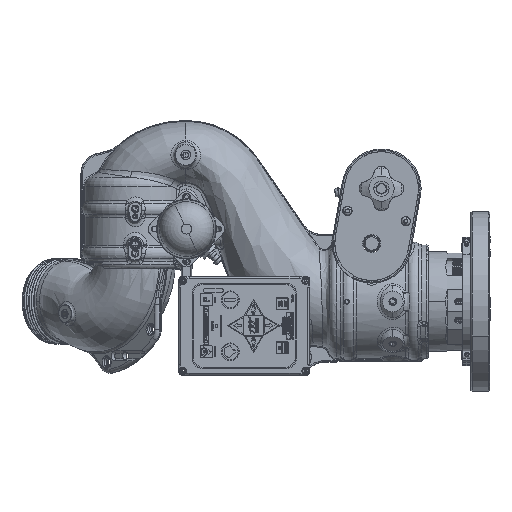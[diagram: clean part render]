
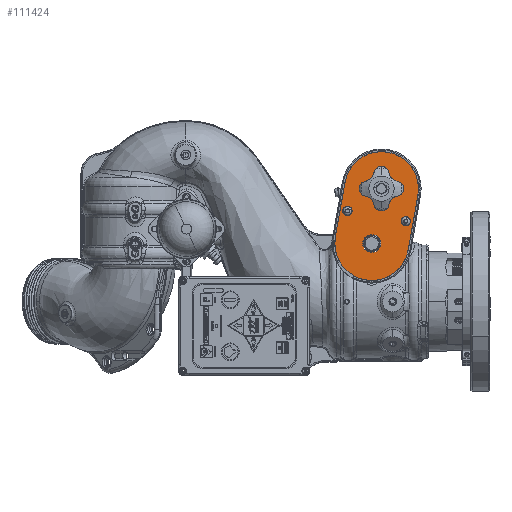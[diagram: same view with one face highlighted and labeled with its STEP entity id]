
A CAD part, left-side view. The second image highlights one B-rep face of the part: STEP entity #111424.
In plain terms, the highlighted planar face has unit normal (-1, 0, 0).
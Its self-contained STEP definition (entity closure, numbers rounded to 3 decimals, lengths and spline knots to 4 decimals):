
#1159 = CARTESIAN_POINT ( 'NONE',  ( -4.345, -2.2275, 5.5832 ) ) ;
#1966 = CARTESIAN_POINT ( 'NONE',  ( -4.345, -2.6633, 5.5064 ) ) ;
#2374 = VERTEX_POINT ( 'NONE', #48702 ) ;
#3278 = DIRECTION ( 'NONE',  ( 0., -0.985, -0.174 ) ) ;
#6094 = EDGE_LOOP ( 'NONE', ( #21336, #66813 ) ) ;
#7051 = LINE ( 'NONE', #28840, #168540 ) ;
#8096 = EDGE_CURVE ( 'NONE', #29639, #58061, #22727, .T. ) ;
#8844 = AXIS2_PLACEMENT_3D ( 'NONE', #187108, #89139, #185735 ) ;
#9478 = ORIENTED_EDGE ( 'NONE', *, *, #38033, .T. ) ;
#10681 = ORIENTED_EDGE ( 'NONE', *, *, #8096, .T. ) ;
#10947 = AXIS2_PLACEMENT_3D ( 'NONE', #194693, #50889, #194012 ) ;
#16415 = DIRECTION ( 'NONE',  ( -1., 0., 0. ) ) ;
#17092 = DIRECTION ( 'NONE',  ( 0., -0.985, -0.174 ) ) ;
#17705 = VECTOR ( 'NONE', #159980, 39.3701 ) ;
#21336 = ORIENTED_EDGE ( 'NONE', *, *, #24702, .F. ) ;
#22727 = CIRCLE ( 'NONE', #8844, 0.4425 ) ;
#24519 = PLANE ( 'NONE',  #38363 ) ;
#24702 = EDGE_CURVE ( 'NONE', #79254, #78336, #83583, .T. ) ;
#25587 = AXIS2_PLACEMENT_3D ( 'NONE', #89870, #139267, #107251 ) ;
#26520 = FACE_BOUND ( 'NONE', #126392, .T. ) ;
#26645 = VERTEX_POINT ( 'NONE', #127368 ) ;
#28566 = EDGE_CURVE ( 'NONE', #74547, #185310, #109792, .T. ) ;
#28840 = CARTESIAN_POINT ( 'NONE',  ( -4.345, 0.0502, 3.1924 ) ) ;
#29639 = VERTEX_POINT ( 'NONE', #150041 ) ;
#29850 = DIRECTION ( 'NONE',  ( 1., 0., 0. ) ) ;
#32271 = AXIS2_PLACEMENT_3D ( 'NONE', #39749, #56362, #102977 ) ;
#32861 = EDGE_CURVE ( 'NONE', #37873, #26645, #166203, .T. ) ;
#37443 = EDGE_CURVE ( 'NONE', #78336, #79254, #108437, .T. ) ;
#37873 = VERTEX_POINT ( 'NONE', #48614 ) ;
#38033 = EDGE_CURVE ( 'NONE', #185310, #74547, #190398, .T. ) ;
#38363 = AXIS2_PLACEMENT_3D ( 'NONE', #151711, #152403, #41817 ) ;
#39749 = CARTESIAN_POINT ( 'NONE',  ( -4.345, -0.546, 4.4835 ) ) ;
#40074 = DIRECTION ( 'NONE',  ( -1., 0., 0. ) ) ;
#41817 = DIRECTION ( 'NONE',  ( 0., -0.985, -0.174 ) ) ;
#42105 = EDGE_LOOP ( 'NONE', ( #69166, #48076, #71295, #147506 ) ) ;
#48076 = ORIENTED_EDGE ( 'NONE', *, *, #87094, .T. ) ;
#48614 = CARTESIAN_POINT ( 'NONE',  ( -4.345, -3.6623, 3.934 ) ) ;
#48702 = CARTESIAN_POINT ( 'NONE',  ( -4.345, -3.5502, 2.5576 ) ) ;
#50889 = DIRECTION ( 'NONE',  ( -1., 0., 0. ) ) ;
#53673 = VERTEX_POINT ( 'NONE', #90592 ) ;
#56230 = EDGE_CURVE ( 'NONE', #138092, #2374, #199950, .T. ) ;
#56362 = DIRECTION ( 'NONE',  ( -1., 0., 0. ) ) ;
#56909 = CARTESIAN_POINT ( 'NONE',  ( -4.345, -2.1858, 2.7982 ) ) ;
#58061 = VERTEX_POINT ( 'NONE', #56909 ) ;
#59911 = AXIS2_PLACEMENT_3D ( 'NONE', #128954, #16415, #17092 ) ;
#62623 = ORIENTED_EDGE ( 'NONE', *, *, #140477, .T. ) ;
#66315 = FACE_BOUND ( 'NONE', #6094, .T. ) ;
#66813 = ORIENTED_EDGE ( 'NONE', *, *, #37443, .F. ) ;
#68837 = CARTESIAN_POINT ( 'NONE',  ( -4.345, -0.3152, 4.5242 ) ) ;
#69166 = ORIENTED_EDGE ( 'NONE', *, *, #81417, .T. ) ;
#71295 = ORIENTED_EDGE ( 'NONE', *, *, #86141, .T. ) ;
#71900 = CARTESIAN_POINT ( 'NONE',  ( -4.345, -4.0278, 5.2658 ) ) ;
#74547 = VERTEX_POINT ( 'NONE', #1966 ) ;
#78336 = VERTEX_POINT ( 'NONE', #68837 ) ;
#78545 = EDGE_LOOP ( 'NONE', ( #62623, #10681 ) ) ;
#79254 = VERTEX_POINT ( 'NONE', #182995 ) ;
#81417 = EDGE_CURVE ( 'NONE', #2374, #167622, #141989, .T. ) ;
#83583 = CIRCLE ( 'NONE', #10947, 0.2344 ) ;
#84171 = AXIS2_PLACEMENT_3D ( 'NONE', #177008, #127739, #3278 ) ;
#84363 = ORIENTED_EDGE ( 'NONE', *, *, #104961, .F. ) ;
#86141 = EDGE_CURVE ( 'NONE', #53673, #138092, #7051, .T. ) ;
#87094 = EDGE_CURVE ( 'NONE', #167622, #53673, #175740, .T. ) ;
#89139 = DIRECTION ( 'NONE',  ( 1., 0., 0. ) ) ;
#89870 = CARTESIAN_POINT ( 'NONE',  ( -4.345, -2.2275, 5.5832 ) ) ;
#90592 = CARTESIAN_POINT ( 'NONE',  ( -4.345, -0.4273, 5.9007 ) ) ;
#95996 = CARTESIAN_POINT ( 'NONE',  ( -4.345, -4.0278, 5.2658 ) ) ;
#101650 = AXIS2_PLACEMENT_3D ( 'NONE', #155065, #105667, #154374 ) ;
#102977 = DIRECTION ( 'NONE',  ( 0., -0.985, -0.174 ) ) ;
#103668 = FACE_BOUND ( 'NONE', #78545, .T. ) ;
#104961 = EDGE_CURVE ( 'NONE', #26645, #37873, #171914, .T. ) ;
#105667 = DIRECTION ( 'NONE',  ( 1., 0., 0. ) ) ;
#107251 = DIRECTION ( 'NONE',  ( 0., -0.985, -0.174 ) ) ;
#108437 = CIRCLE ( 'NONE', #32271, 0.2344 ) ;
#109792 = CIRCLE ( 'NONE', #101650, 0.4425 ) ;
#110402 = CARTESIAN_POINT ( 'NONE',  ( -4.345, -1.75, 2.875 ) ) ;
#111424 = ADVANCED_FACE ( 'NONE', ( #103668, #175636, #26520, #66315, #163246 ), #24519, .T. ) ;
#124328 = AXIS2_PLACEMENT_3D ( 'NONE', #1159, #146412, #128341 ) ;
#126392 = EDGE_LOOP ( 'NONE', ( #143972, #84363 ) ) ;
#127368 = CARTESIAN_POINT ( 'NONE',  ( -4.345, -3.2007, 4.0154 ) ) ;
#127739 = DIRECTION ( 'NONE',  ( -1., 0., 0. ) ) ;
#128341 = DIRECTION ( 'NONE',  ( 0., -0.985, -0.174 ) ) ;
#128954 = CARTESIAN_POINT ( 'NONE',  ( -4.345, -3.4315, 3.9747 ) ) ;
#135296 = CARTESIAN_POINT ( 'NONE',  ( -4.345, -1.75, 2.875 ) ) ;
#137991 = DIRECTION ( 'NONE',  ( 0., -0.985, -0.174 ) ) ;
#138092 = VERTEX_POINT ( 'NONE', #149019 ) ;
#138281 = ORIENTED_EDGE ( 'NONE', *, *, #28566, .T. ) ;
#139267 = DIRECTION ( 'NONE',  ( 1., 0., 0. ) ) ;
#140477 = EDGE_CURVE ( 'NONE', #58061, #29639, #159130, .T. ) ;
#140670 = EDGE_LOOP ( 'NONE', ( #138281, #9478 ) ) ;
#141989 = LINE ( 'NONE', #95996, #17705 ) ;
#143972 = ORIENTED_EDGE ( 'NONE', *, *, #32861, .F. ) ;
#146412 = DIRECTION ( 'NONE',  ( -1., 0., 0. ) ) ;
#147506 = ORIENTED_EDGE ( 'NONE', *, *, #56230, .T. ) ;
#149019 = CARTESIAN_POINT ( 'NONE',  ( -4.345, 0.0502, 3.1924 ) ) ;
#150041 = CARTESIAN_POINT ( 'NONE',  ( -4.345, -1.3142, 2.9518 ) ) ;
#151711 = CARTESIAN_POINT ( 'NONE',  ( -4.345, -3.3706, 0.5482 ) ) ;
#152403 = DIRECTION ( 'NONE',  ( -1., 0., 0. ) ) ;
#152413 = AXIS2_PLACEMENT_3D ( 'NONE', #135296, #40074, #137991 ) ;
#154374 = DIRECTION ( 'NONE',  ( 0., -0.985, -0.174 ) ) ;
#155065 = CARTESIAN_POINT ( 'NONE',  ( -4.345, -2.2275, 5.5832 ) ) ;
#159130 = CIRCLE ( 'NONE', #188846, 0.4425 ) ;
#159980 = DIRECTION ( 'NONE',  ( 0., -0.174, 0.985 ) ) ;
#163246 = FACE_OUTER_BOUND ( 'NONE', #42105, .T. ) ;
#166203 = CIRCLE ( 'NONE', #59911, 0.2344 ) ;
#167622 = VERTEX_POINT ( 'NONE', #71900 ) ;
#168540 = VECTOR ( 'NONE', #188580, 39.3701 ) ;
#171914 = CIRCLE ( 'NONE', #84171, 0.2344 ) ;
#174971 = DIRECTION ( 'NONE',  ( 0., -0.985, -0.174 ) ) ;
#175636 = FACE_BOUND ( 'NONE', #140670, .T. ) ;
#175740 = CIRCLE ( 'NONE', #124328, 1.828 ) ;
#177008 = CARTESIAN_POINT ( 'NONE',  ( -4.345, -3.4315, 3.9747 ) ) ;
#182995 = CARTESIAN_POINT ( 'NONE',  ( -4.345, -0.7769, 4.4428 ) ) ;
#185310 = VERTEX_POINT ( 'NONE', #189180 ) ;
#185735 = DIRECTION ( 'NONE',  ( 0., -0.985, -0.174 ) ) ;
#187108 = CARTESIAN_POINT ( 'NONE',  ( -4.345, -1.75, 2.875 ) ) ;
#188580 = DIRECTION ( 'NONE',  ( 0., 0.174, -0.985 ) ) ;
#188846 = AXIS2_PLACEMENT_3D ( 'NONE', #110402, #29850, #174971 ) ;
#189180 = CARTESIAN_POINT ( 'NONE',  ( -4.345, -1.7918, 5.6601 ) ) ;
#190398 = CIRCLE ( 'NONE', #25587, 0.4425 ) ;
#194012 = DIRECTION ( 'NONE',  ( 0., -0.985, -0.174 ) ) ;
#194693 = CARTESIAN_POINT ( 'NONE',  ( -4.345, -0.546, 4.4835 ) ) ;
#199950 = CIRCLE ( 'NONE', #152413, 1.828 ) ;
